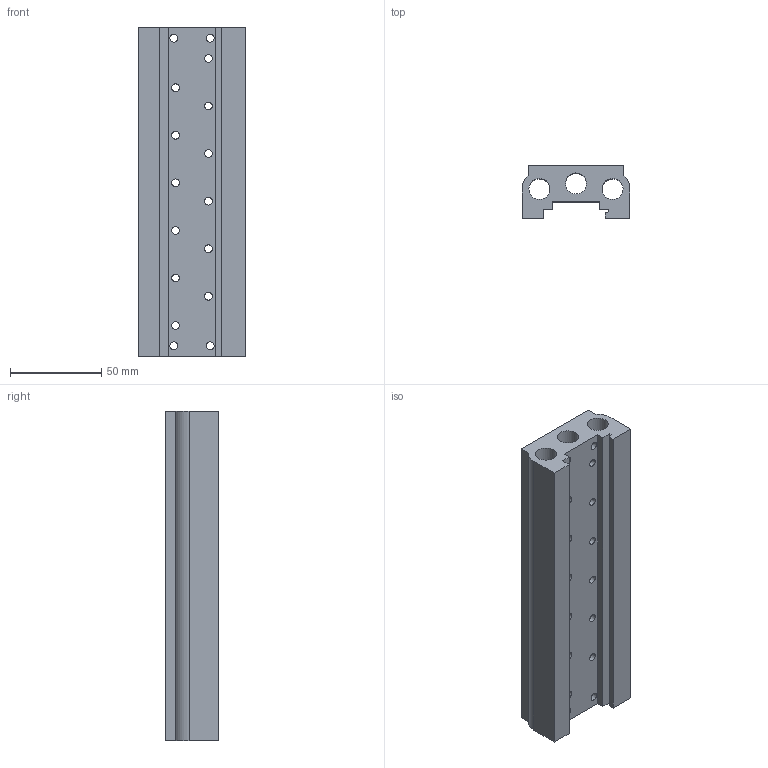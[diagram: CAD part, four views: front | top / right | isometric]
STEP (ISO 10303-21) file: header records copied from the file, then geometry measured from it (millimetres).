
FILE_DESCRIPTION((''),'2;1');
FILE_NAME('K:\A-Roberto\_Inventor\Rev.Librerie\TECNOECO\T488_ ##\T488_ 06.stp','2006-10-06T08:55:09',('rivolro1'),(''),'Autodesk Inventor 11','Autodesk Inventor 11','');
FILE_SCHEMA(('AUTOMOTIVE_DESIGN { 1 0 10303 214 1 1 1 1 }'));
Length unit declared in the file: millimetre
Products named in the file (1): T488_ 06
Bounding box: 59 x 29 x 180 mm (x, y, z)
Volume: 179566.3 mm3; surface area: 63061.8 mm2
Topology: 1 solids, 1 shells, 149 faces, 345 edges, 226 vertices
Faces by surface type: bspline 126, plane 18, cylinder 5
Full cylindrical faces by diameter (mm): 11.5 x3
Entity records: 6343 total; most frequent: CARTESIAN_POINT 3672, ORIENTED_EDGE 464, DIRECTION 402, EDGE_LOOP 340, EDGE_CURVE 232, VERTEX_POINT 202, FACE_BOUND 191, AXIS2_PLACEMENT_3D 176
